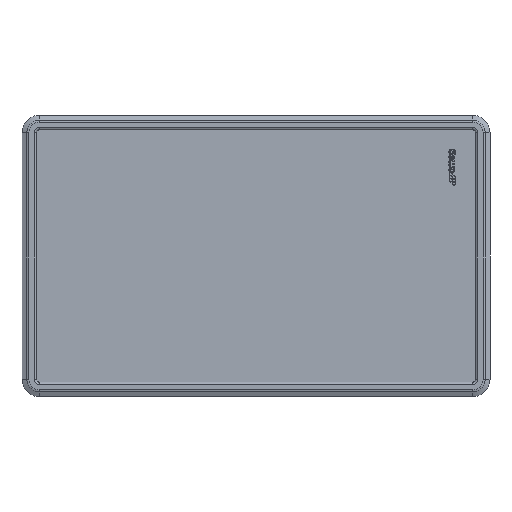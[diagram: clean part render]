
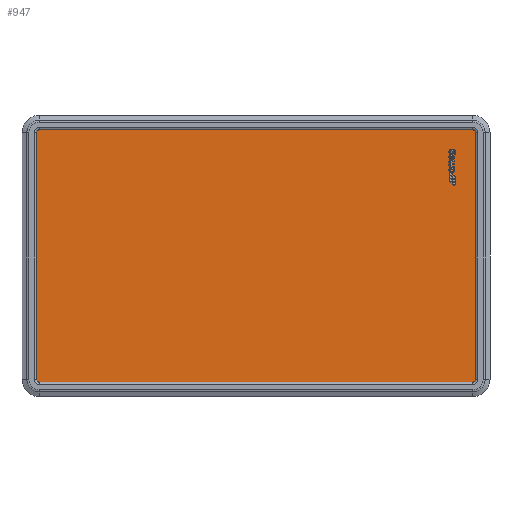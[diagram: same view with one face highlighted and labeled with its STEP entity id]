
A CAD part, top view. The second image highlights one B-rep face of the part: STEP entity #947.
In plain terms, the highlighted planar face has unit normal (0, 0, 1).
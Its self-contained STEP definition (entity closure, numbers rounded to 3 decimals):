
#198=LINE('',#4232,#418);
#204=LINE('',#4246,#424);
#208=LINE('',#4255,#428);
#212=LINE('',#4264,#432);
#418=VECTOR('',#3179,1.);
#424=VECTOR('',#3187,1.);
#428=VECTOR('',#3193,1.);
#432=VECTOR('',#3199,1.);
#696=PLANE('',#2718);
#798=FACE_OUTER_BOUND('',#1185,.T.);
#947=ADVANCED_FACE('',(#798),#696,.T.);
#1185=EDGE_LOOP('',(#1607,#1608,#1609,#1610,#1611,#1612,#1613,#1614));
#1607=ORIENTED_EDGE('',*,*,#2337,.T.);
#1608=ORIENTED_EDGE('',*,*,#2339,.T.);
#1609=ORIENTED_EDGE('',*,*,#2323,.T.);
#1610=ORIENTED_EDGE('',*,*,#2340,.T.);
#1611=ORIENTED_EDGE('',*,*,#2329,.T.);
#1612=ORIENTED_EDGE('',*,*,#2341,.T.);
#1613=ORIENTED_EDGE('',*,*,#2333,.T.);
#1614=ORIENTED_EDGE('',*,*,#2342,.T.);
#2053=VERTEX_POINT('',#4233);
#2054=VERTEX_POINT('',#4234);
#2059=VERTEX_POINT('',#4245);
#2060=VERTEX_POINT('',#4247);
#2063=VERTEX_POINT('',#4254);
#2064=VERTEX_POINT('',#4256);
#2067=VERTEX_POINT('',#4263);
#2068=VERTEX_POINT('',#4265);
#2323=EDGE_CURVE('',#2053,#2054,#198,.T.);
#2329=EDGE_CURVE('',#2060,#2059,#204,.T.);
#2333=EDGE_CURVE('',#2064,#2063,#208,.T.);
#2337=EDGE_CURVE('',#2068,#2067,#212,.T.);
#2339=EDGE_CURVE('',#2067,#2053,#2537,.T.);
#2340=EDGE_CURVE('',#2054,#2060,#2538,.T.);
#2341=EDGE_CURVE('',#2059,#2064,#2539,.T.);
#2342=EDGE_CURVE('',#2063,#2068,#2540,.T.);
#2537=CIRCLE('',#2714,3.);
#2538=CIRCLE('',#2715,3.);
#2539=CIRCLE('',#2716,3.);
#2540=CIRCLE('',#2717,3.);
#2714=AXIS2_PLACEMENT_3D('',#4268,#3203,#3204);
#2715=AXIS2_PLACEMENT_3D('',#4269,#3205,#3206);
#2716=AXIS2_PLACEMENT_3D('',#4270,#3207,#3208);
#2717=AXIS2_PLACEMENT_3D('',#4271,#3209,#3210);
#2718=AXIS2_PLACEMENT_3D('',#4272,#3211,#3212);
#3179=DIRECTION('',(0.,-1.,0.));
#3187=DIRECTION('',(1.,0.,0.));
#3193=DIRECTION('',(0.,1.,0.));
#3199=DIRECTION('',(-1.,0.,0.));
#3203=DIRECTION('',(0.,0.,1.));
#3204=DIRECTION('',(1.,0.,0.));
#3205=DIRECTION('',(0.,0.,1.));
#3206=DIRECTION('',(1.,0.,0.));
#3207=DIRECTION('',(0.,0.,1.));
#3208=DIRECTION('',(1.,0.,0.));
#3209=DIRECTION('',(0.,0.,1.));
#3210=DIRECTION('',(1.,0.,0.));
#3211=DIRECTION('',(0.,0.,1.));
#3212=DIRECTION('',(1.,0.,0.));
#4232=CARTESIAN_POINT('',(-269.,282.5,125.8));
#4233=CARTESIAN_POINT('',(-269.,279.5,125.8));
#4234=CARTESIAN_POINT('',(-269.,16.5,125.8));
#4245=CARTESIAN_POINT('',(196.,13.5,125.8));
#4246=CARTESIAN_POINT('',(-269.,13.5,125.8));
#4247=CARTESIAN_POINT('',(-266.,13.5,125.8));
#4254=CARTESIAN_POINT('',(199.,279.5,125.8));
#4255=CARTESIAN_POINT('',(199.,13.5,125.8));
#4256=CARTESIAN_POINT('',(199.,16.5,125.8));
#4263=CARTESIAN_POINT('',(-266.,282.5,125.8));
#4264=CARTESIAN_POINT('',(199.,282.5,125.8));
#4265=CARTESIAN_POINT('',(196.,282.5,125.8));
#4268=CARTESIAN_POINT('',(-266.,279.5,125.8));
#4269=CARTESIAN_POINT('',(-266.,16.5,125.8));
#4270=CARTESIAN_POINT('',(196.,16.5,125.8));
#4271=CARTESIAN_POINT('',(196.,279.5,125.8));
#4272=CARTESIAN_POINT('',(-35.,13.5,125.8));
